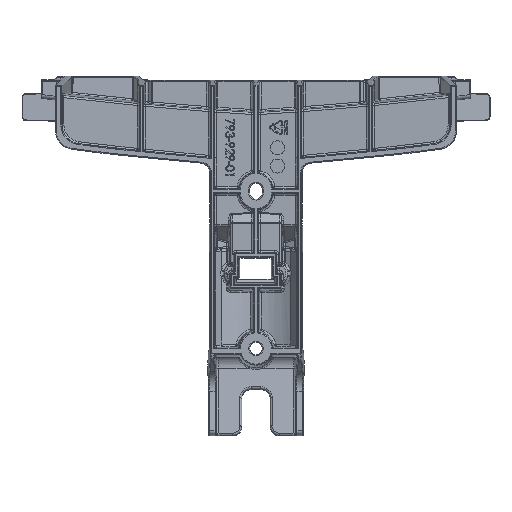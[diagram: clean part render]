
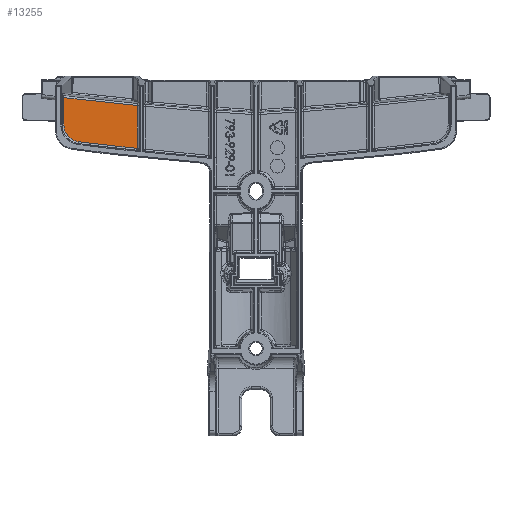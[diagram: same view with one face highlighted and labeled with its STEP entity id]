
A CAD part, top view. The second image highlights one B-rep face of the part: STEP entity #13255.
In plain terms, the highlighted planar face has unit normal (0.021, 0, 1).
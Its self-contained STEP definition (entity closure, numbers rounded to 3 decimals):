
#219 = EDGE_CURVE ( 'NONE', #58706, #86660, #35281, .T. ) ;
#2175 = CARTESIAN_POINT ( 'NONE',  ( -94.642, 10.966, 51.483 ) ) ;
#2195 = VERTEX_POINT ( 'NONE', #102643 ) ;
#2939 = CARTESIAN_POINT ( 'NONE',  ( -63.316, 7.383, 50.827 ) ) ;
#3281 = CARTESIAN_POINT ( 'NONE',  ( -98.84, 12.688, 51.571 ) ) ;
#3850 = CARTESIAN_POINT ( 'NONE',  ( -102.438, 19.344, 51.647 ) ) ;
#3916 =( BOUNDED_CURVE ( )  B_SPLINE_CURVE ( 3, ( #98467, #21216, #28061, #20097 ),
 .UNSPECIFIED., .F., .F. ) 
 B_SPLINE_CURVE_WITH_KNOTS ( ( 4, 4 ),
 ( 4.808, 4.832 ),
 .UNSPECIFIED. ) 
 CURVE ( )  GEOMETRIC_REPRESENTATION_ITEM ( )  RATIONAL_B_SPLINE_CURVE ( ( 1., 1., 1., 1. ) ) 
 REPRESENTATION_ITEM ( '' )  );
#5629 = VERTEX_POINT ( 'NONE', #84452 ) ;
#8277 = VECTOR ( 'NONE', #107754, 1000. ) ;
#8487 = DIRECTION ( 'NONE',  ( -1., 0., 0.021 ) ) ;
#9604 = VERTEX_POINT ( 'NONE', #65480 ) ;
#10694 = CARTESIAN_POINT ( 'NONE',  ( -101.958, 16.978, 51.636 ) ) ;
#11240 = CARTESIAN_POINT ( 'NONE',  ( -102.438, 19.887, 51.647 ) ) ;
#11783 = CARTESIAN_POINT ( 'NONE',  ( -100.878, 14.82, 51.614 ) ) ;
#13255 = ADVANCED_FACE ( 'NONE', ( #70370 ), #86294, .F. ) ;
#19187 = CARTESIAN_POINT ( 'NONE',  ( -102.042, 17.237, 51.638 ) ) ;
#20097 = CARTESIAN_POINT ( 'NONE',  ( -102.438, 34.495, 51.647 ) ) ;
#21006 = CARTESIAN_POINT ( 'NONE',  ( -63.523, 7.403, 50.831 ) ) ;
#21155 = DIRECTION ( 'NONE',  ( 0., -1., 0. ) ) ;
#21216 = CARTESIAN_POINT ( 'NONE',  ( -76.373, 31.523, 51.101 ) ) ;
#21431 = CARTESIAN_POINT ( 'NONE',  ( -101.672, 16.218, 51.63 ) ) ;
#21576 = CARTESIAN_POINT ( 'NONE',  ( -63.316, 7.383, 50.827 ) ) ;
#25312 = CARTESIAN_POINT ( 'NONE',  ( -63.935, 7.443, 50.84 ) ) ;
#27504 = CARTESIAN_POINT ( 'NONE',  ( -63.316, 30.269, 50.827 ) ) ;
#28061 = CARTESIAN_POINT ( 'NONE',  ( -89.415, 32.931, 51.374 ) ) ;
#28404 = ORIENTED_EDGE ( 'NONE', *, *, #34912, .T. ) ;
#29105 = CARTESIAN_POINT ( 'NONE',  ( -102.438, 19.881, 51.647 ) ) ;
#29344 = ORIENTED_EDGE ( 'NONE', *, *, #105980, .T. ) ;
#29525 = CARTESIAN_POINT ( 'NONE',  ( -63.935, 7.443, 50.84 ) ) ;
#30087 = CARTESIAN_POINT ( 'NONE',  ( -63.729, 7.423, 50.836 ) ) ;
#33956 = ORIENTED_EDGE ( 'NONE', *, *, #219, .T. ) ;
#34337 = ORIENTED_EDGE ( 'NONE', *, *, #56474, .T. ) ;
#34912 = EDGE_CURVE ( 'NONE', #86660, #62030, #91264, .T. ) ;
#35281 = B_SPLINE_CURVE_WITH_KNOTS ( 'NONE', 3,
 ( #29525, #30087, #21006, #21576 ),
 .UNSPECIFIED., .F., .F.,
 ( 4, 4 ),
 ( 0., 0.001 ),
 .UNSPECIFIED. ) ;
#37923 = CARTESIAN_POINT ( 'NONE',  ( -98.622, 12.53, 51.567 ) ) ;
#38485 = CARTESIAN_POINT ( 'NONE',  ( -95.18, 11.04, 51.495 ) ) ;
#41210 = CARTESIAN_POINT ( 'NONE',  ( -63.935, 7.443, 50.84 ) ) ;
#42896 = CARTESIAN_POINT ( 'NONE',  ( -84.433, 9.565, 51.269 ) ) ;
#45310 = ORIENTED_EDGE ( 'NONE', *, *, #57911, .T. ) ;
#45325 = CARTESIAN_POINT ( 'NONE',  ( -97.937, 12.092, 51.552 ) ) ;
#46429 = CARTESIAN_POINT ( 'NONE',  ( -99.857, 13.561, 51.592 ) ) ;
#46993 = CARTESIAN_POINT ( 'NONE',  ( -100.56, 14.383, 51.607 ) ) ;
#51647 = CARTESIAN_POINT ( 'NONE',  ( 0.073, 0., 49.499 ) ) ;
#53397 = EDGE_LOOP ( 'NONE', ( #28404, #45310, #34337, #29344, #64062, #33956 ) ) ;
#53842 = CARTESIAN_POINT ( 'NONE',  ( -100.39, 14.17, 51.604 ) ) ;
#56061 = CARTESIAN_POINT ( 'NONE',  ( -99.469, 13.19, 51.584 ) ) ;
#56474 = EDGE_CURVE ( 'NONE', #9604, #2195, #106939, .T. ) ;
#57911 = EDGE_CURVE ( 'NONE', #62030, #9604, #3916, .T. ) ;
#58706 = VERTEX_POINT ( 'NONE', #41210 ) ;
#62030 = VERTEX_POINT ( 'NONE', #27504 ) ;
#63465 = CARTESIAN_POINT ( 'NONE',  ( -102.186, 17.756, 51.641 ) ) ;
#64062 = ORIENTED_EDGE ( 'NONE', *, *, #75949, .T. ) ;
#65480 = CARTESIAN_POINT ( 'NONE',  ( -102.438, 34.495, 51.647 ) ) ;
#70370 = FACE_OUTER_BOUND ( 'NONE', #53397, .T. ) ;
#73675 = VECTOR ( 'NONE', #21155, 1000. ) ;
#74221 =( BOUNDED_CURVE ( )  B_SPLINE_CURVE ( 3, ( #103144, #42896, #95693, #25312 ),
 .UNSPECIFIED., .F., .F. ) 
 B_SPLINE_CURVE_WITH_KNOTS ( ( 4, 4 ),
 ( 4.576, 4.62 ),
 .UNSPECIFIED. ) 
 CURVE ( )  GEOMETRIC_REPRESENTATION_ITEM ( )  RATIONAL_B_SPLINE_CURVE ( ( 1., 1., 1., 1. ) ) 
 REPRESENTATION_ITEM ( '' )  );
#75949 = EDGE_CURVE ( 'NONE', #5629, #58706, #74221, .T. ) ;
#79960 = CARTESIAN_POINT ( 'NONE',  ( -95.712, 11.163, 51.506 ) ) ;
#81646 = CARTESIAN_POINT ( 'NONE',  ( -96.733, 11.497, 51.527 ) ) ;
#84452 = CARTESIAN_POINT ( 'NONE',  ( -94.642, 10.966, 51.483 ) ) ;
#86294 = PLANE ( 'NONE',  #93400 ) ;
#86660 = VERTEX_POINT ( 'NONE', #2939 ) ;
#87974 = DIRECTION ( 'NONE',  ( -0.021, 0., -1. ) ) ;
#88481 = CARTESIAN_POINT ( 'NONE',  ( -98.17, 12.231, 51.557 ) ) ;
#89590 = CARTESIAN_POINT ( 'NONE',  ( -101.026, 15.044, 51.617 ) ) ;
#91264 = LINE ( 'NONE', #91811, #8277 ) ;
#91811 = CARTESIAN_POINT ( 'NONE',  ( -63.316, 31.159, 50.827 ) ) ;
#93400 = AXIS2_PLACEMENT_3D ( 'NONE', #51647, #87974, #8487 ) ;
#95693 = CARTESIAN_POINT ( 'NONE',  ( -74.196, 8.39, 51.055 ) ) ;
#98125 = CARTESIAN_POINT ( 'NONE',  ( -101.438, 15.735, 51.626 ) ) ;
#98467 = CARTESIAN_POINT ( 'NONE',  ( -63.316, 30.269, 50.827 ) ) ;
#99245 = CARTESIAN_POINT ( 'NONE',  ( -102.389, 18.809, 51.646 ) ) ;
#102643 = CARTESIAN_POINT ( 'NONE',  ( -102.438, 19.887, 51.647 ) ) ;
#103144 = CARTESIAN_POINT ( 'NONE',  ( -94.642, 10.966, 51.483 ) ) ;
#105980 = EDGE_CURVE ( 'NONE', #2195, #5629, #108641, .T. ) ;
#106662 = CARTESIAN_POINT ( 'NONE',  ( -102.245, 18.018, 51.643 ) ) ;
#106939 = LINE ( 'NONE', #29105, #73675 ) ;
#107222 = CARTESIAN_POINT ( 'NONE',  ( -97.226, 11.708, 51.537 ) ) ;
#107754 = DIRECTION ( 'NONE',  ( 0., 1., 0. ) ) ;
#108641 = B_SPLINE_CURVE_WITH_KNOTS ( 'NONE', 3,
 ( #11240, #3850, #99245, #106662, #63465, #19187, #10694, #21431, #98125, #89590, #11783, #46993, #53842, #46429, #56061, #3281, #37923, #88481, #45325, #107222, #81646, #79960, #38485, #2175 ),
 .UNSPECIFIED., .F., .F.,
 ( 4, 2, 2, 2, 2, 2, 2, 2, 2, 2, 2, 4 ),
 ( 0., 0.002, 0.002, 0.003, 0.005, 0.006, 0.006, 0.008, 0.009, 0.01, 0.011, 0.013 ),
 .UNSPECIFIED. ) ;
